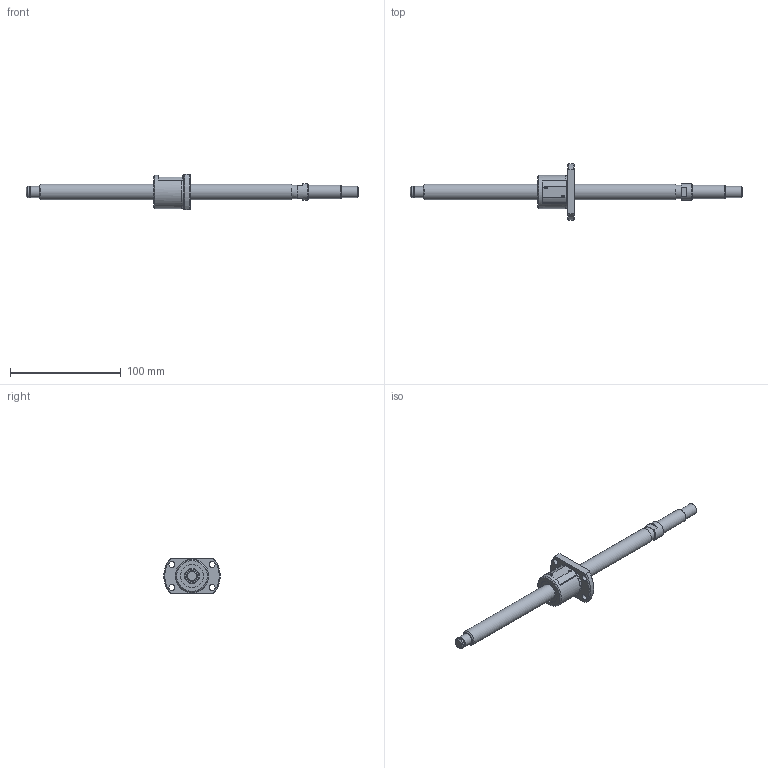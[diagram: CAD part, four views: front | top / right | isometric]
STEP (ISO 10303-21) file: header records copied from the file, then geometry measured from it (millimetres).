
FILE_DESCRIPTION(/* description */ ('STEP AP214'),/* implementation_level */ '2;1');
FILE_NAME(/* name */ 'SG1404-228R300C5B0X(103.5)',/* time_stamp */ '2026-07-24T21:01:22+02:00',/* author */ ('License CC BY-ND 4.0'),/* organization */ ('CADENAS'),/* preprocessor_version */ 'ST-DEVELOPER v20',/* originating_system */ 'PARTsolutions',/* authorisation */ ' ');
FILE_SCHEMA (('AUTOMOTIVE_DESIGN {1 0 10303 214 3 1 1}'));
Length unit declared in the file: millimetre
Products named in the file (3): SG1404-228R300C5B0X(103.5); SG1404-228R300C5B_shaft; SG1404 C5_nut
Assembly tree (2 placements, depth 2):
  SG1404-228R300C5B0X(103.5)
    SG1404-228R300C5B_shaft
    SG1404 C5_nut
Bounding box: 300 x 51 x 32 mm (x, y, z)
Volume: 64345.6 mm3; surface area: 20839.7 mm2
Topology: 2 solids, 2 shells, 85 faces, 202 edges, 132 vertices
Faces by surface type: plane 41, cylinder 29, cone 14, torus 1
Full cylindrical faces by diameter (mm): 5.5 x4, 9.6 x1, 10 x3, 12 x1, 12.16 x1, 14 x2, 15 x1, 21 x2, 29.6 x1, 30 x1
Entity records: 2353 total; most frequent: CARTESIAN_POINT 430, DIRECTION 404, ORIENTED_EDGE 326, AXIS2_PLACEMENT_3D 171, EDGE_CURVE 163, EDGE_LOOP 134, FACE_BOUND 134, VERTEX_POINT 121
